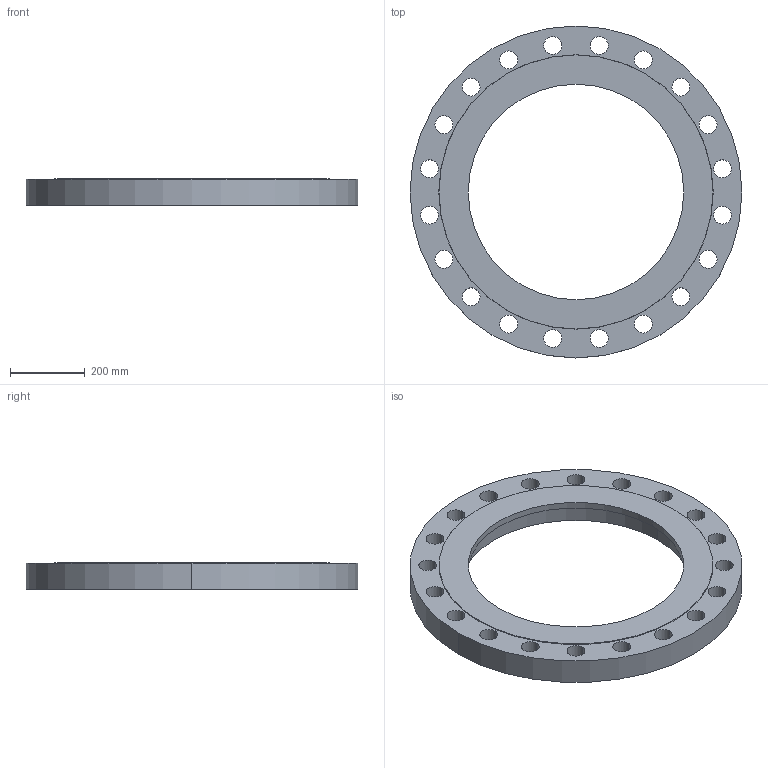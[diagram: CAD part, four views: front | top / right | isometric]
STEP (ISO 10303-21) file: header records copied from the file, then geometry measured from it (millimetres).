
FILE_DESCRIPTION (( 'STEP AP214' ), '1' );
FILE_NAME ('PN40 DN600 Type 05 - Socket (Type B) - Not in Standard.STEP', '2018-12-28T23:54:01', ( '' ), ( '' ), 'SwSTEP 2.0', 'SolidWorks 2019', '' );
FILE_SCHEMA (( 'AUTOMOTIVE_DESIGN' ));
Length unit declared in the file: millimetre
Products named in the file (1): PN40 DN600 Type 05 - Socket (Type B) - Not in Standard
Bounding box: 890 x 890 x 72 mm (x, y, z)
Volume: 21021553.8 mm3; surface area: 1195052.6 mm2
Topology: 1 solids, 1 shells, 52 faces, 144 edges, 96 vertices
Faces by surface type: cylinder 46, plane 4, cone 2
Entity records: 1842 total; most frequent: DIRECTION 346, CARTESIAN_POINT 293, ORIENTED_EDGE 288, AXIS2_PLACEMENT_3D 149, EDGE_CURVE 144, EDGE_LOOP 96, CIRCLE 96, VERTEX_POINT 96
